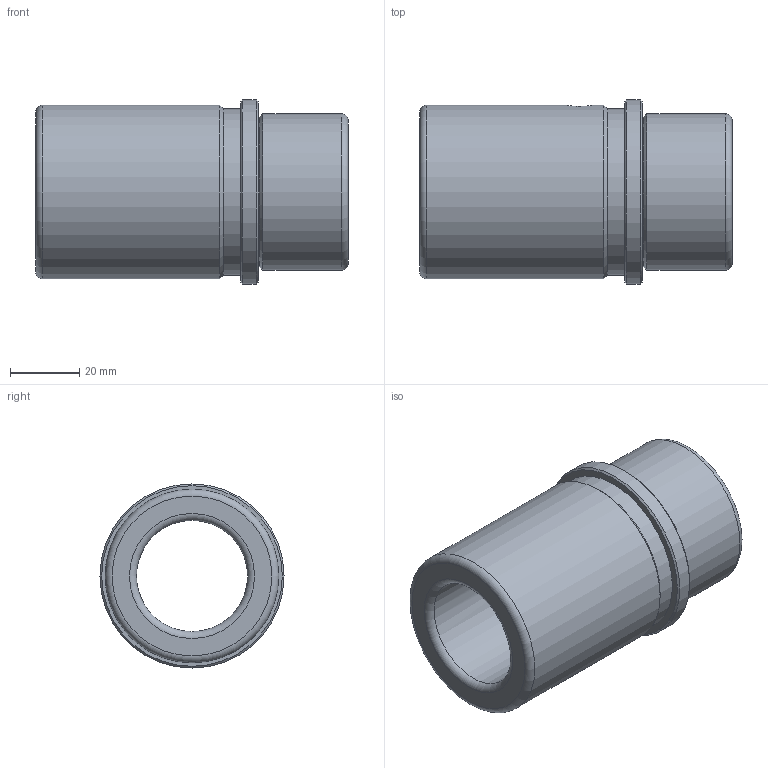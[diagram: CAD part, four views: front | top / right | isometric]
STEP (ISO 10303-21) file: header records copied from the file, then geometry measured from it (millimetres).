
FILE_DESCRIPTION( ( 'STEP AP214' ), '1' );
FILE_NAME( 'p:/temp/worker_22/temp/exporttempdir_4224_100_jvh3T/format_2/WZ - 4055 32 x 90.stp', '2020-12-04T19:46:55', ( 'License CC BY-ND 4.0' ), ( 'CADENAS' ), ' ', 'PARTsolutions', ' ' );
FILE_SCHEMA( ( 'AUTOMOTIVE_DESIGN { 1 0 10303 214 1 1 1 1 }' ) );
Length unit declared in the file: millimetre
Products named in the file (1): _WZ - 4055 32 x 90
Bounding box: 90 x 53 x 53 mm (x, y, z)
Volume: 93633.4 mm3; surface area: 25798.1 mm2
Topology: 1 solids, 1 shells, 21 faces, 38 edges, 22 vertices
Faces by surface type: cylinder 7, cone 5, plane 5, torus 4
Full cylindrical faces by diameter (mm): 8.376 x1, 32 x1, 43 x1, 45 x1, 48 x1, 50 x1, 53 x1
Entity records: 750 total; most frequent: CARTESIAN_POINT 196, DIRECTION 84, EDGE_LOOP 44, ORIENTED_EDGE 44, AXIS2_PLACEMENT_3D 42, FACE_OUTER_BOUND 32, EDGE_CURVE 22, VERTEX_POINT 22
